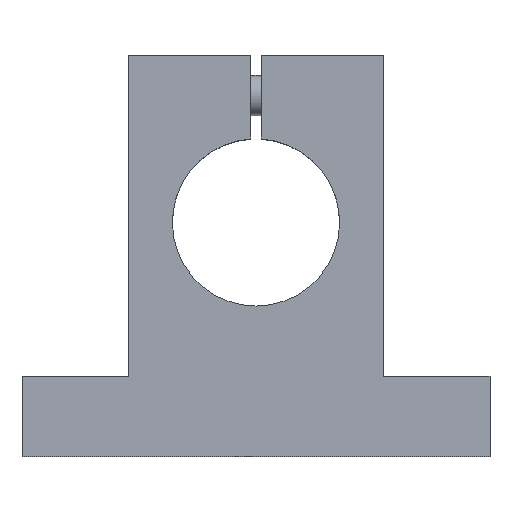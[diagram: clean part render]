
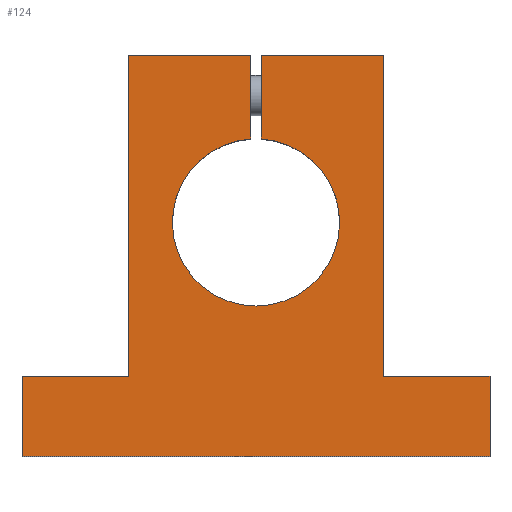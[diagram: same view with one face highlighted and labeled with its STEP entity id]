
A CAD part, top view. The second image highlights one B-rep face of the part: STEP entity #124.
In plain terms, the highlighted planar face has unit normal (0, 0, 1).
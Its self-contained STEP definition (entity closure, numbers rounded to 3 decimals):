
#124=ADVANCED_FACE('',(#160),#161,.F.);
#160=FACE_OUTER_BOUND('',#248,.T.);
#161=PLANE('',#249);
#248=EDGE_LOOP('',(#341,#342,#343,#344,#345,#346,#347,#348,#349,#350,#351,#352));
#249=AXIS2_PLACEMENT_3D('',#353,#354,#355);
#341=ORIENTED_EDGE('',*,*,#580,.T.);
#342=ORIENTED_EDGE('',*,*,#581,.T.);
#343=ORIENTED_EDGE('',*,*,#582,.T.);
#344=ORIENTED_EDGE('',*,*,#583,.T.);
#345=ORIENTED_EDGE('',*,*,#584,.T.);
#346=ORIENTED_EDGE('',*,*,#585,.T.);
#347=ORIENTED_EDGE('',*,*,#586,.T.);
#348=ORIENTED_EDGE('',*,*,#587,.T.);
#349=ORIENTED_EDGE('',*,*,#588,.T.);
#350=ORIENTED_EDGE('',*,*,#589,.T.);
#351=ORIENTED_EDGE('',*,*,#590,.T.);
#352=ORIENTED_EDGE('',*,*,#578,.T.);
#353=CARTESIAN_POINT('',(0.,0.,24.0));
#354=DIRECTION('',(0.0,0.0,-1.0));
#355=DIRECTION('',(0.06,0.998,0.0));
#578=EDGE_CURVE('',#651,#649,#652,.T.);
#580=EDGE_CURVE('',#649,#654,#655,.T.);
#581=EDGE_CURVE('',#654,#656,#657,.T.);
#582=EDGE_CURVE('',#656,#658,#659,.T.);
#583=EDGE_CURVE('',#658,#660,#661,.T.);
#584=EDGE_CURVE('',#660,#662,#663,.T.);
#585=EDGE_CURVE('',#662,#664,#665,.T.);
#586=EDGE_CURVE('',#664,#666,#667,.T.);
#587=EDGE_CURVE('',#666,#668,#669,.T.);
#588=EDGE_CURVE('',#668,#670,#671,.T.);
#589=EDGE_CURVE('',#670,#672,#673,.T.);
#590=EDGE_CURVE('',#672,#651,#674,.T.);
#649=VERTEX_POINT('',#772);
#651=VERTEX_POINT('',#775);
#652=LINE('',#776,#777);
#654=VERTEX_POINT('',#780);
#655=LINE('',#781,#782);
#656=VERTEX_POINT('',#783);
#657=CIRCLE('',#784,12.5);
#658=VERTEX_POINT('',#785);
#659=LINE('',#786,#787);
#660=VERTEX_POINT('',#788);
#661=LINE('',#789,#790);
#662=VERTEX_POINT('',#791);
#663=LINE('',#792,#793);
#664=VERTEX_POINT('',#794);
#665=LINE('',#795,#796);
#666=VERTEX_POINT('',#797);
#667=LINE('',#798,#799);
#668=VERTEX_POINT('',#800);
#669=LINE('',#801,#802);
#670=VERTEX_POINT('',#803);
#671=LINE('',#804,#805);
#672=VERTEX_POINT('',#806);
#673=LINE('',#807,#808);
#674=LINE('',#809,#810);
#772=CARTESIAN_POINT('',(0.75,25.0,24.0));
#775=CARTESIAN_POINT('',(19.0,25.0,24.0));
#776=CARTESIAN_POINT('',(19.0,25.0,24.0));
#777=VECTOR('',#977,1.0);
#780=CARTESIAN_POINT('',(0.75,12.477,24.0));
#781=CARTESIAN_POINT('',(0.75,25.0,24.0));
#782=VECTOR('',#979,1.0);
#783=CARTESIAN_POINT('',(-0.75,12.477,24.0));
#784=AXIS2_PLACEMENT_3D('',#980,#981,#982);
#785=CARTESIAN_POINT('',(-0.75,25.0,24.0));
#786=CARTESIAN_POINT('',(-0.75,12.477,24.0));
#787=VECTOR('',#983,1.0);
#788=CARTESIAN_POINT('',(-19.0,25.0,24.0));
#789=CARTESIAN_POINT('',(-0.75,25.0,24.0));
#790=VECTOR('',#984,1.0);
#791=CARTESIAN_POINT('',(-19.0,-23.0,24.0));
#792=CARTESIAN_POINT('',(-19.0,25.0,24.0));
#793=VECTOR('',#985,1.0);
#794=CARTESIAN_POINT('',(-35.0,-23.0,24.0));
#795=CARTESIAN_POINT('',(-19.0,-23.0,24.0));
#796=VECTOR('',#986,1.0);
#797=CARTESIAN_POINT('',(-35.0,-35.0,24.0));
#798=CARTESIAN_POINT('',(-35.0,-23.0,24.0));
#799=VECTOR('',#987,1.0);
#800=CARTESIAN_POINT('',(35.0,-35.0,24.0));
#801=CARTESIAN_POINT('',(-35.0,-35.0,24.0));
#802=VECTOR('',#988,1.0);
#803=CARTESIAN_POINT('',(35.0,-23.0,24.0));
#804=CARTESIAN_POINT('',(35.0,-35.0,24.0));
#805=VECTOR('',#989,1.0);
#806=CARTESIAN_POINT('',(19.0,-23.0,24.0));
#807=CARTESIAN_POINT('',(35.0,-23.0,24.0));
#808=VECTOR('',#990,1.0);
#809=CARTESIAN_POINT('',(19.0,-23.0,24.0));
#810=VECTOR('',#991,1.0);
#977=DIRECTION('',(-1.0,0.,0.0));
#979=DIRECTION('',(0.0,-1.0,0.0));
#980=CARTESIAN_POINT('',(0.,0.,24.0));
#981=DIRECTION('',(0.0,0.0,-1.0));
#982=DIRECTION('',(1.0,0.,0.0));
#983=DIRECTION('',(0.0,1.0,0.0));
#984=DIRECTION('',(-1.0,0.,0.0));
#985=DIRECTION('',(0.,-1.0,0.0));
#986=DIRECTION('',(-1.0,0.,0.0));
#987=DIRECTION('',(0.,-1.0,0.0));
#988=DIRECTION('',(1.0,0.0,0.0));
#989=DIRECTION('',(0.,1.0,0.0));
#990=DIRECTION('',(-1.0,0.,0.0));
#991=DIRECTION('',(0.,1.0,0.0));
